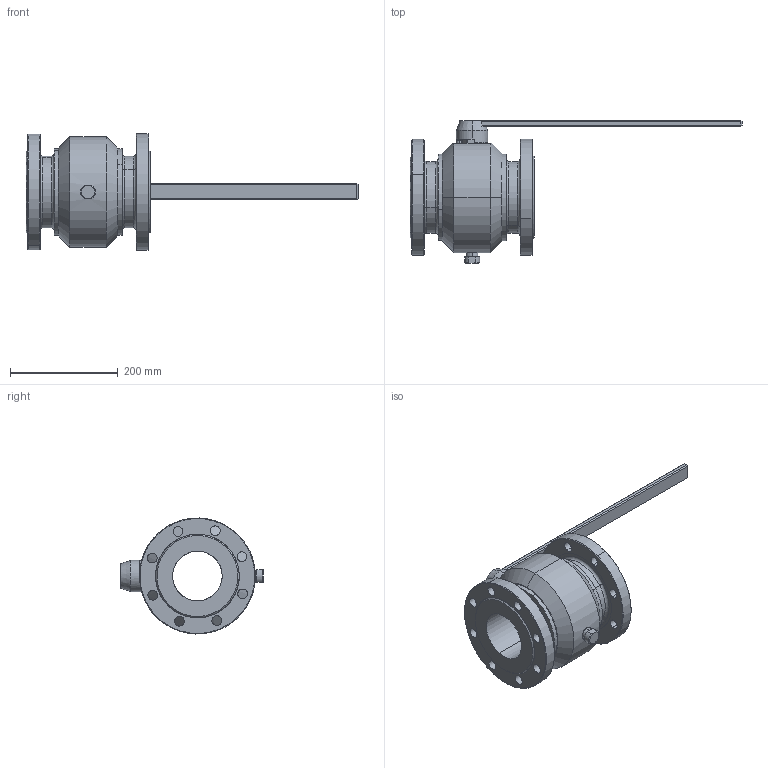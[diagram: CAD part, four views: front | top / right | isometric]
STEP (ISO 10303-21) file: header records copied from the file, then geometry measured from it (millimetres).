
FILE_DESCRIPTION(('STEP AP203'), '1');
FILE_NAME('ZARD 100.016.21.P.stp', '2013-12-09T05:53:39', ('UNSPECIFIED UNSPECIFIED'), ('UNSPECIFIED'), 'ASCON STEP Converter 1.3', 'Kompas 3D', '');
FILE_SCHEMA(('CONFIG_CONTROL_DESIGN','SUPPORT_RESOURCE_SCHEMA'));
Length unit declared in the file: millimetre
Products named in the file (1): 1
Bounding box: 615 x 264 x 214.92 mm (x, y, z)
Volume: 4258632.1 mm3; surface area: 542192.8 mm2
Topology: 14 solids, 14 shells, 267 faces, 607 edges, 384 vertices
Faces by surface type: cylinder 110, plane 97, cone 52, torus 8
Entity records: 9500 total; most frequent: CARTESIAN_POINT 3065, DIRECTION 1387, ORIENTED_EDGE 1214, EDGE_CURVE 607, AXIS2_PLACEMENT_3D 568, VERTEX_POINT 384, EDGE_LOOP 335, CIRCLE 300
